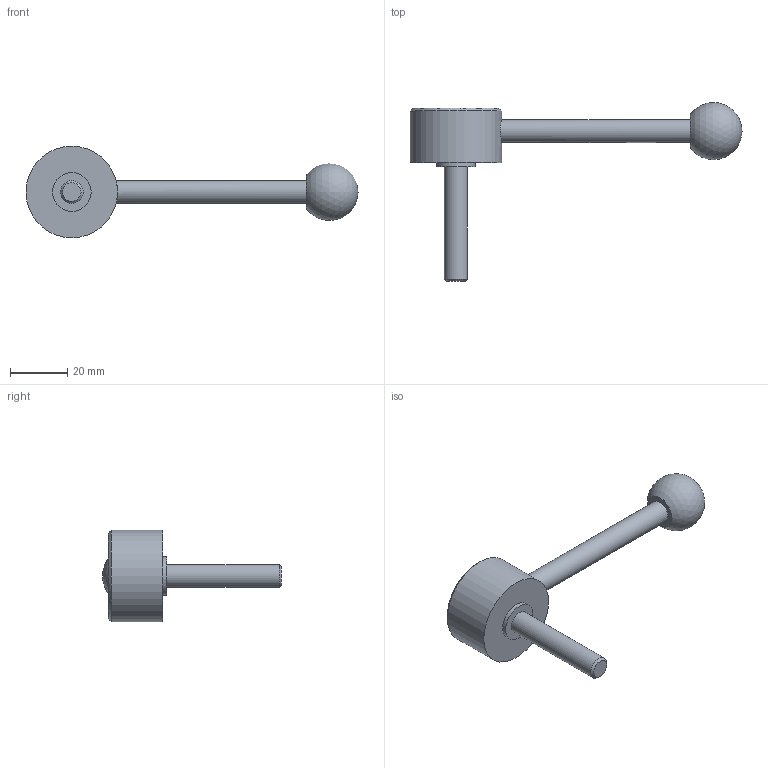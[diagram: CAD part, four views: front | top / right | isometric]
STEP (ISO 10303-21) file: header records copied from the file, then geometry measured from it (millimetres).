
FILE_DESCRIPTION( ( 'STEP AP203' ), '1' );
FILE_NAME( 'C:/Temp/Ganter_Step_05_03_2020/data/2_1/gn_125/gn_125_ms/gn_125_ms_d/Flat Adjustable Lever GN 125-32-M8-40-D.stp', '2020-03-05T11:00:45', ( 'License CC BY-ND 4.0' ), ( 'CADENAS' ), ' ', 'PARTsolutions', ' ' );
FILE_SCHEMA( ( 'CONFIG_CONTROL_DESIGN' ) );
Length unit declared in the file: millimetre
Products named in the file (1): _Flat Adjustable Lever GN 125-32-M8-40-D
Bounding box: 116 x 62.43 x 32 mm (x, y, z)
Volume: 24750.3 mm3; surface area: 7340.8 mm2
Topology: 1 solids, 1 shells, 14 faces, 23 edges, 15 vertices
Faces by surface type: plane 6, cylinder 5, cone 2, sphere 1
Full cylindrical faces by diameter (mm): 8 x2, 13.5 x1, 22 x1, 32 x1
Entity records: 384 total; most frequent: CARTESIAN_POINT 107, DIRECTION 54, AXIS2_PLACEMENT_3D 27, EDGE_LOOP 26, ORIENTED_EDGE 26, FACE_OUTER_BOUND 19, ADVANCED_FACE 14, VERTEX_POINT 14
